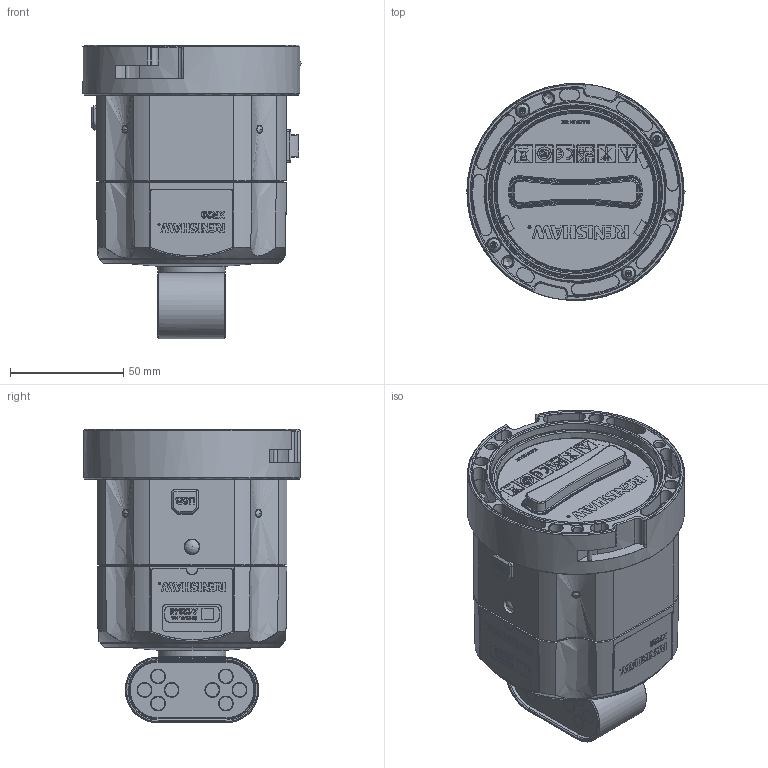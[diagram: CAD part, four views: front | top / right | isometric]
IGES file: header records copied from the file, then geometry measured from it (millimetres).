
Global section: file name: Y:\_LCPD Drawings\13.1 Lightweight Models\9920\LA-9920-1400 XR20\LA-9920-1400 XR20 ASSY LIGHTWEIGHT.igs; native system: NX V1926; preprocessor: SIEMENS PLM Software NX 1946; date: 20220805.104841; units: millimetre
Bounding box: 96.45 x 95.96 x 129.77 mm (x, y, z)
Surface area: 118633.7 mm2 (no closed solid volume)
Topology: 0 solids, 0 shells, 1902 faces, 16144 edges, 15912 vertices
Faces by surface type: bspline 1902
